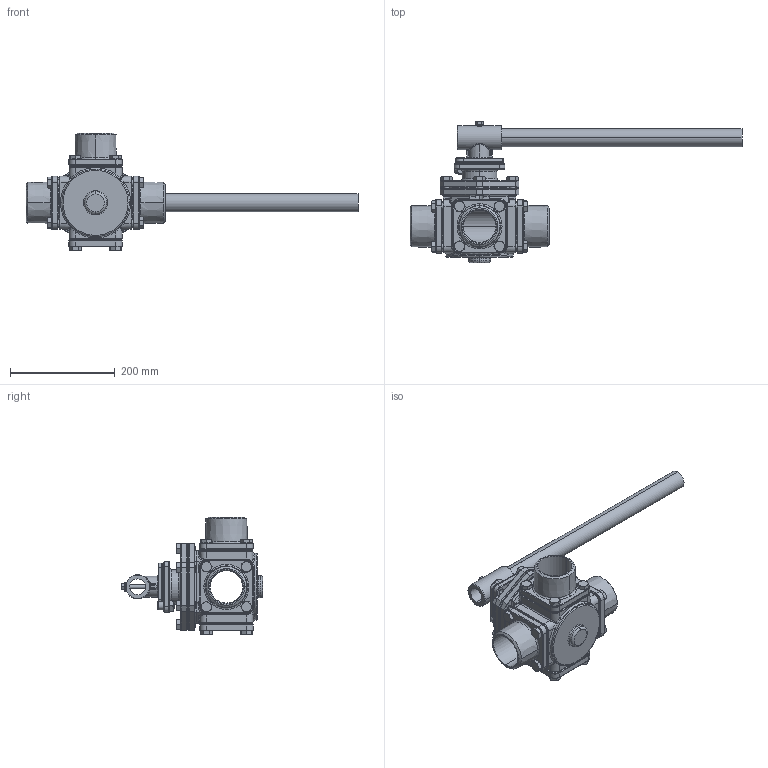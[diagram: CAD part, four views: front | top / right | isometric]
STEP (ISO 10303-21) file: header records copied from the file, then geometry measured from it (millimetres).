
FILE_DESCRIPTION (( 'STEP AP214' ), '1' );
FILE_NAME ('505T-065-3Way.STEP', '2017-10-12T02:24:08', ( '' ), ( '' ), 'SwSTEP 2.0', 'SolidWorks 2012', '' );
FILE_SCHEMA (( 'AUTOMOTIVE_DESIGN' ));
Length unit declared in the file: millimetre
Products named in the file (1): 505T-065-3Way
Bounding box: 632.5 x 269 x 223.7 mm (x, y, z)
Volume: 3063361 mm3; surface area: 429599 mm2
Topology: 1 solids, 2 shells, 1106 faces, 2627 edges, 1563 vertices
Faces by surface type: cylinder 351, plane 308, cone 268, torus 122, bspline 50, sphere 7
Entity records: 36639 total; most frequent: CARTESIAN_POINT 12145, ORIENTED_EDGE 5216, DIRECTION 5022, EDGE_CURVE 2608, AXIS2_PLACEMENT_3D 2068, VERTEX_POINT 1559, EDGE_LOOP 1217, ADVANCED_FACE 1104
